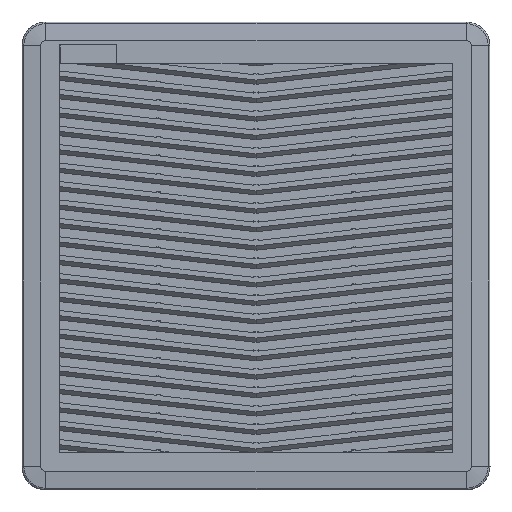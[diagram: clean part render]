
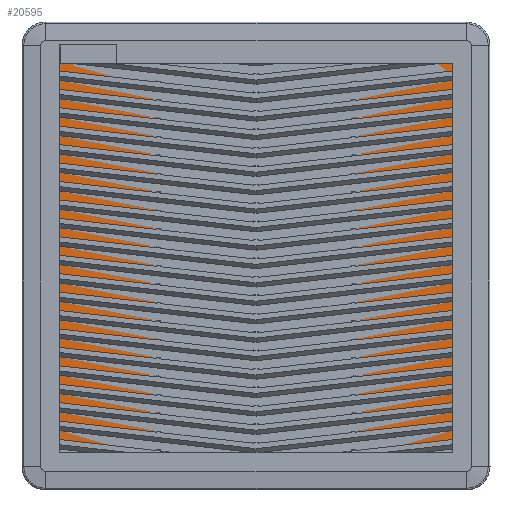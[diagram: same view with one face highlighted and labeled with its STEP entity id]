
A CAD part, top view. The second image highlights one B-rep face of the part: STEP entity #20595.
In plain terms, the highlighted planar face has unit normal (0, 0, 1).
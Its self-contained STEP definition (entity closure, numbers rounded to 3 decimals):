
#247 = VERTEX_POINT ( 'NONE', #28896 ) ;
#2156 = AXIS2_PLACEMENT_3D ( 'NONE', #34043, #9741, #24810 ) ;
#3831 = EDGE_CURVE ( 'NONE', #247, #16131, #14154, .T. ) ;
#4850 = CARTESIAN_POINT ( 'NONE',  ( -111.96, 124.96, 6.009 ) ) ;
#6669 = PLANE ( 'NONE',  #25058 ) ;
#6793 = EDGE_LOOP ( 'NONE', ( #22350, #18498, #32673, #32200, #11746, #31323, #22290, #25598 ) ) ;
#7679 = VERTEX_POINT ( 'NONE', #14038 ) ;
#7756 = CARTESIAN_POINT ( 'NONE',  ( -111.96, -112.04, 6.009 ) ) ;
#9112 = VERTEX_POINT ( 'NONE', #20914 ) ;
#9605 = FACE_OUTER_BOUND ( 'NONE', #6793, .T. ) ;
#9741 = DIRECTION ( 'NONE',  ( 0., 0., -1. ) ) ;
#10016 = VECTOR ( 'NONE', #18485, 1000. ) ;
#11629 = DIRECTION ( 'NONE',  ( 0., 0., -1. ) ) ;
#11746 = ORIENTED_EDGE ( 'NONE', *, *, #28691, .F. ) ;
#12477 = EDGE_CURVE ( 'NONE', #13625, #19160, #13508, .T. ) ;
#13064 = CARTESIAN_POINT ( 'NONE',  ( -122.46, 114.46, 6.009 ) ) ;
#13508 = LINE ( 'NONE', #31536, #33456 ) ;
#13530 = VERTEX_POINT ( 'NONE', #13064 ) ;
#13625 = VERTEX_POINT ( 'NONE', #4850 ) ;
#14038 = CARTESIAN_POINT ( 'NONE',  ( 112.04, -122.54, 6.009 ) ) ;
#14112 = EDGE_CURVE ( 'NONE', #19160, #20159, #15028, .T. ) ;
#14154 = CIRCLE ( 'NONE', #21002, 10.5 ) ;
#14363 = VECTOR ( 'NONE', #28231, 1000. ) ;
#15028 = CIRCLE ( 'NONE', #38173, 10.5 ) ;
#15708 = EDGE_CURVE ( 'NONE', #13530, #13625, #34102, .T. ) ;
#15865 = DIRECTION ( 'NONE',  ( 0., 0., 1. ) ) ;
#16131 = VERTEX_POINT ( 'NONE', #32737 ) ;
#18047 = EDGE_CURVE ( 'NONE', #20159, #9112, #21780, .T. ) ;
#18485 = DIRECTION ( 'NONE',  ( 0., -1., 0. ) ) ;
#18498 = ORIENTED_EDGE ( 'NONE', *, *, #33055, .F. ) ;
#18515 = DIRECTION ( 'NONE',  ( 0., 0., -1. ) ) ;
#19160 = VERTEX_POINT ( 'NONE', #20688 ) ;
#20159 = VERTEX_POINT ( 'NONE', #24386 ) ;
#20595 = ADVANCED_FACE ( 'NONE', ( #9605 ), #6669, .T. ) ;
#20619 = DIRECTION ( 'NONE',  ( 1., 0., 0. ) ) ;
#20653 = EDGE_CURVE ( 'NONE', #7679, #247, #36094, .T. ) ;
#20688 = CARTESIAN_POINT ( 'NONE',  ( 112.04, 124.96, 6.009 ) ) ;
#20914 = CARTESIAN_POINT ( 'NONE',  ( 122.54, -112.04, 6.009 ) ) ;
#21002 = AXIS2_PLACEMENT_3D ( 'NONE', #7756, #22632, #31861 ) ;
#21340 = CARTESIAN_POINT ( 'NONE',  ( 0.04, -0.04, 6.009 ) ) ;
#21780 = LINE ( 'NONE', #27666, #10016 ) ;
#22290 = ORIENTED_EDGE ( 'NONE', *, *, #14112, .F. ) ;
#22350 = ORIENTED_EDGE ( 'NONE', *, *, #15708, .F. ) ;
#22632 = DIRECTION ( 'NONE',  ( 0., 0., -1. ) ) ;
#24291 = DIRECTION ( 'NONE',  ( -1., 0., 0. ) ) ;
#24386 = CARTESIAN_POINT ( 'NONE',  ( 122.54, 114.46, 6.009 ) ) ;
#24810 = DIRECTION ( 'NONE',  ( 1., 0., 0. ) ) ;
#25058 = AXIS2_PLACEMENT_3D ( 'NONE', #21340, #15865, #27419 ) ;
#25598 = ORIENTED_EDGE ( 'NONE', *, *, #12477, .F. ) ;
#26319 = CARTESIAN_POINT ( 'NONE',  ( 112.04, 114.46, 6.009 ) ) ;
#27419 = DIRECTION ( 'NONE',  ( 1., 0., 0. ) ) ;
#27666 = CARTESIAN_POINT ( 'NONE',  ( 122.54, -112.04, 6.009 ) ) ;
#28231 = DIRECTION ( 'NONE',  ( 0., 1., 0. ) ) ;
#28691 = EDGE_CURVE ( 'NONE', #9112, #7679, #30182, .T. ) ;
#28896 = CARTESIAN_POINT ( 'NONE',  ( -111.96, -122.54, 6.009 ) ) ;
#30182 = CIRCLE ( 'NONE', #30788, 10.5 ) ;
#30655 = DIRECTION ( 'NONE',  ( 1., 0., 0. ) ) ;
#30788 = AXIS2_PLACEMENT_3D ( 'NONE', #36555, #18515, #30655 ) ;
#31323 = ORIENTED_EDGE ( 'NONE', *, *, #18047, .F. ) ;
#31536 = CARTESIAN_POINT ( 'NONE',  ( -111.96, 124.96, 6.009 ) ) ;
#31861 = DIRECTION ( 'NONE',  ( 1., 0., 0. ) ) ;
#32200 = ORIENTED_EDGE ( 'NONE', *, *, #20653, .F. ) ;
#32673 = ORIENTED_EDGE ( 'NONE', *, *, #3831, .F. ) ;
#32737 = CARTESIAN_POINT ( 'NONE',  ( -122.46, -112.04, 6.009 ) ) ;
#33055 = EDGE_CURVE ( 'NONE', #16131, #13530, #34933, .T. ) ;
#33242 = VECTOR ( 'NONE', #24291, 1000. ) ;
#33456 = VECTOR ( 'NONE', #37810, 1000. ) ;
#34043 = CARTESIAN_POINT ( 'NONE',  ( -111.96, 114.46, 6.009 ) ) ;
#34102 = CIRCLE ( 'NONE', #2156, 10.5 ) ;
#34933 = LINE ( 'NONE', #37478, #14363 ) ;
#36094 = LINE ( 'NONE', #36271, #33242 ) ;
#36271 = CARTESIAN_POINT ( 'NONE',  ( 112.04, -122.54, 6.009 ) ) ;
#36555 = CARTESIAN_POINT ( 'NONE',  ( 112.04, -112.04, 6.009 ) ) ;
#37478 = CARTESIAN_POINT ( 'NONE',  ( -122.46, -112.04, 6.009 ) ) ;
#37810 = DIRECTION ( 'NONE',  ( 1., 0., 0. ) ) ;
#38173 = AXIS2_PLACEMENT_3D ( 'NONE', #26319, #11629, #20619 ) ;
